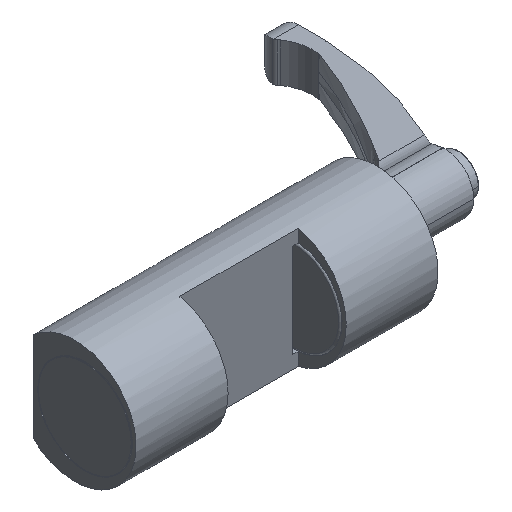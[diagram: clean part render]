
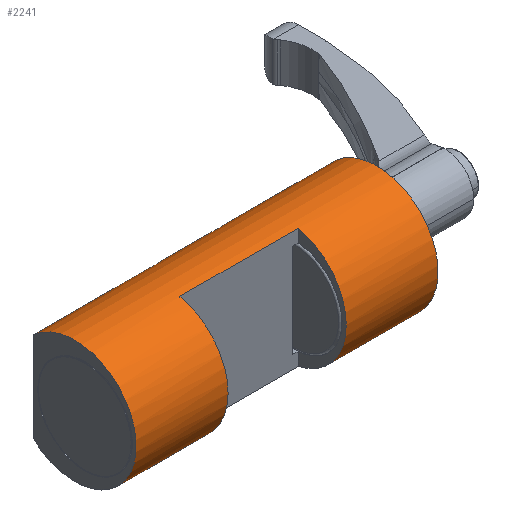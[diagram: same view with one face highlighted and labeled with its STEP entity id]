
A CAD part, isometric view. The second image highlights one B-rep face of the part: STEP entity #2241.
In plain terms, the highlighted cylindrical face has radius 28 mm (diameter 56 mm), a partial arc.
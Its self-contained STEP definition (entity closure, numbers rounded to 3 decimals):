
#1=CARTESIAN_POINT('',(-69.,-3.,0.));
#2=DIRECTION('',(1.,0.,0.));
#3=DIRECTION('',(0.,0.679,0.735));
#4=AXIS2_PLACEMENT_3D('',#1,#2,#3);
#20=CARTESIAN_POINT('',(19.244,16.,20.567));
#21=CARTESIAN_POINT('',(18.828,15.855,20.701));
#22=CARTESIAN_POINT('',(18.003,15.606,20.925));
#23=CARTESIAN_POINT('',(16.8,15.361,21.14));
#24=CARTESIAN_POINT('',(15.6,15.237,21.247));
#25=CARTESIAN_POINT('',(14.4,15.237,21.247));
#26=CARTESIAN_POINT('',(13.2,15.361,21.14));
#27=CARTESIAN_POINT('',(11.997,15.606,20.925));
#28=CARTESIAN_POINT('',(11.172,15.855,20.701));
#29=CARTESIAN_POINT('',(10.756,16.,20.567));
#31=DIRECTION('',(1.,0.,0.));
#32=VECTOR('',#31,49.756);
#33=CARTESIAN_POINT('',(19.244,16.,20.567));
#34=LINE('',#33,#32);
#35=CARTESIAN_POINT('',(10.756,16.,-20.567));
#36=CARTESIAN_POINT('',(11.172,15.855,-20.701));
#37=CARTESIAN_POINT('',(11.997,15.606,-20.925));
#38=CARTESIAN_POINT('',(13.2,15.361,-21.14));
#39=CARTESIAN_POINT('',(14.4,15.237,-21.247));
#40=CARTESIAN_POINT('',(15.6,15.237,-21.247));
#41=CARTESIAN_POINT('',(16.8,15.361,-21.14));
#42=CARTESIAN_POINT('',(18.003,15.606,-20.925));
#43=CARTESIAN_POINT('',(18.828,15.855,-20.701));
#44=CARTESIAN_POINT('',(19.244,16.,-20.567));
#46=CARTESIAN_POINT('',(-19.244,16.,-20.567));
#47=CARTESIAN_POINT('',(-18.828,15.855,-20.701));
#48=CARTESIAN_POINT('',(-18.003,15.606,-20.925));
#49=CARTESIAN_POINT('',(-16.8,15.361,-21.14));
#50=CARTESIAN_POINT('',(-15.6,15.237,-21.247));
#51=CARTESIAN_POINT('',(-14.4,15.237,-21.247));
#52=CARTESIAN_POINT('',(-13.2,15.361,-21.14));
#53=CARTESIAN_POINT('',(-11.997,15.606,-20.925));
#54=CARTESIAN_POINT('',(-11.172,15.855,-20.701));
#55=CARTESIAN_POINT('',(-10.756,16.,-20.567));
#57=DIRECTION('',(1.,0.,0.));
#58=VECTOR('',#57,49.756);
#59=CARTESIAN_POINT('',(-69.,16.,20.567));
#60=LINE('',#59,#58);
#61=CARTESIAN_POINT('',(-10.756,16.,20.567));
#62=CARTESIAN_POINT('',(-11.172,15.855,20.701));
#63=CARTESIAN_POINT('',(-11.997,15.606,20.925));
#64=CARTESIAN_POINT('',(-13.2,15.361,21.14));
#65=CARTESIAN_POINT('',(-14.4,15.237,21.247));
#66=CARTESIAN_POINT('',(-15.6,15.237,21.247));
#67=CARTESIAN_POINT('',(-16.8,15.361,21.14));
#68=CARTESIAN_POINT('',(-18.003,15.606,20.925));
#69=CARTESIAN_POINT('',(-18.828,15.855,20.701));
#70=CARTESIAN_POINT('',(-19.244,16.,20.567));
#72=DIRECTION('',(1.,0.,0.));
#73=VECTOR('',#72,21.513);
#74=CARTESIAN_POINT('',(-10.756,16.,20.567));
#75=LINE('',#74,#73);
#76=CARTESIAN_POINT('',(-27.,-3.,0.));
#77=DIRECTION('',(1.,0.,0.));
#78=DIRECTION('',(0.,-0.214,0.977));
#79=AXIS2_PLACEMENT_3D('',#76,#77,#78);
#81=DIRECTION('',(1.,0.,0.));
#82=VECTOR('',#81,54.);
#83=CARTESIAN_POINT('',(-27.,-9.,-27.35));
#84=LINE('',#83,#82);
#85=CARTESIAN_POINT('',(27.,-3.,0.));
#86=DIRECTION('',(1.,0.,0.));
#87=DIRECTION('',(0.,-0.214,0.977));
#88=AXIS2_PLACEMENT_3D('',#85,#86,#87);
#90=DIRECTION('',(-1.,0.,0.));
#91=VECTOR('',#90,54.);
#92=CARTESIAN_POINT('',(27.,-9.,27.35));
#93=LINE('',#92,#91);
#132=DIRECTION('',(1.,0.,0.));
#133=VECTOR('',#132,49.756);
#134=CARTESIAN_POINT('',(-69.,16.,-20.567));
#135=LINE('',#134,#133);
#151=DIRECTION('',(1.,0.,0.));
#152=VECTOR('',#151,21.513);
#153=CARTESIAN_POINT('',(-10.756,16.,-20.567));
#154=LINE('',#153,#152);
#170=DIRECTION('',(1.,0.,0.));
#171=VECTOR('',#170,49.756);
#172=CARTESIAN_POINT('',(19.244,16.,-20.567));
#173=LINE('',#172,#171);
#342=CARTESIAN_POINT('',(69.,-3.,0.));
#343=DIRECTION('',(1.,0.,0.));
#344=DIRECTION('',(0.,0.679,0.735));
#345=AXIS2_PLACEMENT_3D('',#342,#343,#344);
#1797=CARTESIAN_POINT('',(-69.,16.,-20.567));
#1798=CARTESIAN_POINT('',(-69.,16.,20.567));
#1799=VERTEX_POINT('',#1797);
#1800=VERTEX_POINT('',#1798);
#1801=CARTESIAN_POINT('',(69.,16.,-20.567));
#1802=CARTESIAN_POINT('',(69.,16.,20.567));
#1803=VERTEX_POINT('',#1801);
#1804=VERTEX_POINT('',#1802);
#1844=CARTESIAN_POINT('',(-10.756,16.,-20.567));
#1846=VERTEX_POINT('',#1844);
#1860=CARTESIAN_POINT('',(19.244,16.,-20.567));
#1862=VERTEX_POINT('',#1860);
#1879=CARTESIAN_POINT('',(-19.244,16.,20.567));
#1880=VERTEX_POINT('',#1879);
#1895=CARTESIAN_POINT('',(10.756,16.,20.567));
#1896=VERTEX_POINT('',#1895);
#1903=CARTESIAN_POINT('',(-27.,-9.,27.35));
#1904=VERTEX_POINT('',#1903);
#1905=CARTESIAN_POINT('',(-27.,-9.,-27.35));
#1906=VERTEX_POINT('',#1905);
#1913=CARTESIAN_POINT('',(27.,-9.,27.35));
#1914=VERTEX_POINT('',#1913);
#1915=CARTESIAN_POINT('',(27.,-9.,-27.35));
#1916=VERTEX_POINT('',#1915);
#1917=CARTESIAN_POINT('',(-19.244,16.,-20.567));
#1918=VERTEX_POINT('',#1917);
#1919=CARTESIAN_POINT('',(10.756,16.,-20.567));
#1920=VERTEX_POINT('',#1919);
#1921=CARTESIAN_POINT('',(-10.756,16.,20.567));
#1922=VERTEX_POINT('',#1921);
#1923=CARTESIAN_POINT('',(19.244,16.,20.567));
#1924=VERTEX_POINT('',#1923);
#2201=CARTESIAN_POINT('',(-69.,-3.,0.));
#2202=DIRECTION('',(1.,0.,0.));
#2203=DIRECTION('',(0.,-1.,0.));
#2204=AXIS2_PLACEMENT_3D('',#2201,#2202,#2203);
#2205=CYLINDRICAL_SURFACE('',#2204,28.);
#2207=ORIENTED_EDGE('',*,*,#2206,.F.);
#2209=ORIENTED_EDGE('',*,*,#2208,.T.);
#2211=ORIENTED_EDGE('',*,*,#2210,.T.);
#2213=ORIENTED_EDGE('',*,*,#2212,.F.);
#2215=ORIENTED_EDGE('',*,*,#2214,.F.);
#2217=ORIENTED_EDGE('',*,*,#2216,.F.);
#2219=ORIENTED_EDGE('',*,*,#2218,.F.);
#2221=ORIENTED_EDGE('',*,*,#2220,.F.);
#2222=ORIENTED_EDGE('',*,*,#2188,.F.);
#2224=ORIENTED_EDGE('',*,*,#2223,.T.);
#2226=ORIENTED_EDGE('',*,*,#2225,.F.);
#2228=ORIENTED_EDGE('',*,*,#2227,.T.);
#2229=EDGE_LOOP('',(#2207,#2209,#2211,#2213,#2215,#2217,#2219,#2221,#2222,#2224,
#2226,#2228));
#2230=FACE_OUTER_BOUND('',#2229,.F.);
#2232=ORIENTED_EDGE('',*,*,#2231,.T.);
#2234=ORIENTED_EDGE('',*,*,#2233,.T.);
#2236=ORIENTED_EDGE('',*,*,#2235,.F.);
#2238=ORIENTED_EDGE('',*,*,#2237,.T.);
#2239=EDGE_LOOP('',(#2232,#2234,#2236,#2238));
#2240=FACE_BOUND('',#2239,.F.);
#2241=ADVANCED_FACE('',(#2230,#2240),#2205,.T.);
#5=CIRCLE('',#4,28.);
#30=B_SPLINE_CURVE_WITH_KNOTS('',3,(#20,#21,#22,#23,#24,#25,#26,#27,#28,#29),
.UNSPECIFIED.,.F.,.F.,(4,1,1,1,1,1,1,4),(0.,0.143,
0.286,0.429,0.571,0.714,
0.857,1.),.UNSPECIFIED.);
#45=B_SPLINE_CURVE_WITH_KNOTS('',3,(#35,#36,#37,#38,#39,#40,#41,#42,#43,#44),
.UNSPECIFIED.,.F.,.F.,(4,1,1,1,1,1,1,4),(0.,0.143,
0.286,0.429,0.571,0.714,
0.857,1.),.UNSPECIFIED.);
#56=B_SPLINE_CURVE_WITH_KNOTS('',3,(#46,#47,#48,#49,#50,#51,#52,#53,#54,#55),
.UNSPECIFIED.,.F.,.F.,(4,1,1,1,1,1,1,4),(0.,0.143,
0.286,0.429,0.571,0.714,
0.857,1.),.UNSPECIFIED.);
#71=B_SPLINE_CURVE_WITH_KNOTS('',3,(#61,#62,#63,#64,#65,#66,#67,#68,#69,#70),
.UNSPECIFIED.,.F.,.F.,(4,1,1,1,1,1,1,4),(0.,0.143,
0.286,0.429,0.571,0.714,
0.857,1.),.UNSPECIFIED.);
#80=CIRCLE('',#79,28.);
#89=CIRCLE('',#88,28.);
#346=CIRCLE('',#345,28.);
#2188=EDGE_CURVE('',#1800,#1799,#5,.T.);
#2206=EDGE_CURVE('',#1924,#1896,#30,.T.);
#2208=EDGE_CURVE('',#1924,#1804,#34,.T.);
#2210=EDGE_CURVE('',#1804,#1803,#346,.T.);
#2212=EDGE_CURVE('',#1862,#1803,#173,.T.);
#2214=EDGE_CURVE('',#1920,#1862,#45,.T.);
#2216=EDGE_CURVE('',#1846,#1920,#154,.T.);
#2218=EDGE_CURVE('',#1918,#1846,#56,.T.);
#2220=EDGE_CURVE('',#1799,#1918,#135,.T.);
#2223=EDGE_CURVE('',#1800,#1880,#60,.T.);
#2225=EDGE_CURVE('',#1922,#1880,#71,.T.);
#2227=EDGE_CURVE('',#1922,#1896,#75,.T.);
#2231=EDGE_CURVE('',#1904,#1906,#80,.T.);
#2233=EDGE_CURVE('',#1906,#1916,#84,.T.);
#2235=EDGE_CURVE('',#1914,#1916,#89,.T.);
#2237=EDGE_CURVE('',#1914,#1904,#93,.T.);
